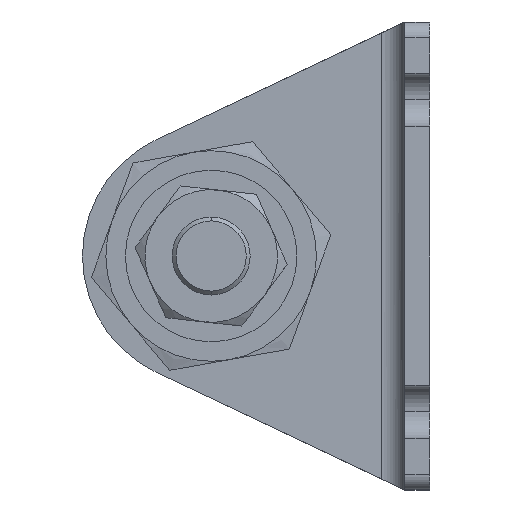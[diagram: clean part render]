
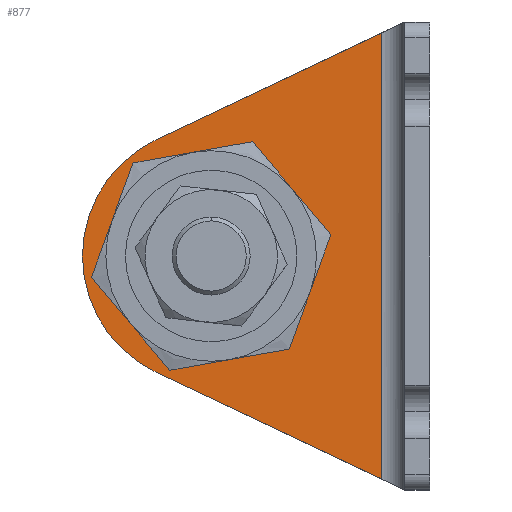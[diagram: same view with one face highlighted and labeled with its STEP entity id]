
A CAD part, left-side view. The second image highlights one B-rep face of the part: STEP entity #877.
In plain terms, the highlighted planar face has unit normal (-1, 0, 0) as drawn and (1, 0, 0) by its records, which use the part's own axes.
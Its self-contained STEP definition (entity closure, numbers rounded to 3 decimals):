
#201 = PLANE ( 'NONE',  #1355 ) ;
#302 = EDGE_CURVE ( 'NONE', #2799, #1390, #457, .T. ) ;
#341 = DIRECTION ( 'NONE',  ( 0., 0.904, 0.428 ) ) ;
#439 = CIRCLE ( 'NONE', #2510, 11.5 ) ;
#456 = CARTESIAN_POINT ( 'NONE',  ( 3.2, 3.2, -60. ) ) ;
#457 = LINE ( 'NONE', #1360, #5029 ) ;
#610 = EDGE_LOOP ( 'NONE', ( #3274, #2743 ) ) ;
#621 = CARTESIAN_POINT ( 'NONE',  ( 3.2, 28., -30. ) ) ;
#850 = CIRCLE ( 'NONE', #1437, 16.5 ) ;
#858 = VERTEX_POINT ( 'NONE', #2144 ) ;
#877 = ADVANCED_FACE ( 'NONE', ( #5231, #1170 ), #201, .T. ) ;
#924 = ORIENTED_EDGE ( 'NONE', *, *, #3091, .F. ) ;
#978 = DIRECTION ( 'NONE',  ( 1., 0., 0. ) ) ;
#1034 = CARTESIAN_POINT ( 'NONE',  ( 3.2, 26.408, -10.99 ) ) ;
#1170 = FACE_BOUND ( 'NONE', #610, .T. ) ;
#1262 = DIRECTION ( 'NONE',  ( 0., 1., 0. ) ) ;
#1313 = CARTESIAN_POINT ( 'NONE',  ( 3.2, 44.5, -30. ) ) ;
#1355 = AXIS2_PLACEMENT_3D ( 'NONE', #456, #1948, #1691 ) ;
#1359 = DIRECTION ( 'NONE',  ( 1., 0., 0. ) ) ;
#1360 = CARTESIAN_POINT ( 'NONE',  ( 3.2, 6.2, -60. ) ) ;
#1390 = VERTEX_POINT ( 'NONE', #5344 ) ;
#1437 = AXIS2_PLACEMENT_3D ( 'NONE', #621, #978, #1769 ) ;
#1473 = ORIENTED_EDGE ( 'NONE', *, *, #1821, .T. ) ;
#1621 = VERTEX_POINT ( 'NONE', #1827 ) ;
#1675 = DIRECTION ( 'NONE',  ( 1., 0., 0. ) ) ;
#1682 = CARTESIAN_POINT ( 'NONE',  ( 3.2, 28., -30. ) ) ;
#1691 = DIRECTION ( 'NONE',  ( 0., 1., 0. ) ) ;
#1769 = DIRECTION ( 'NONE',  ( 0., 1., 0. ) ) ;
#1821 = EDGE_CURVE ( 'NONE', #1390, #1912, #2749, .T. ) ;
#1827 = CARTESIAN_POINT ( 'NONE',  ( 3.2, 39.5, -30. ) ) ;
#1902 = DIRECTION ( 'NONE',  ( 0., 0.904, -0.428 ) ) ;
#1912 = VERTEX_POINT ( 'NONE', #3753 ) ;
#1948 = DIRECTION ( 'NONE',  ( 1., 0., 0. ) ) ;
#1950 = EDGE_CURVE ( 'NONE', #3003, #1621, #439, .T. ) ;
#2144 = CARTESIAN_POINT ( 'NONE',  ( 3.2, 35.062, -15.087 ) ) ;
#2232 = DIRECTION ( 'NONE',  ( 1., 0., 0. ) ) ;
#2270 = CARTESIAN_POINT ( 'NONE',  ( 3.2, 16.5, -30. ) ) ;
#2306 = DIRECTION ( 'NONE',  ( 0., 1., 0. ) ) ;
#2406 = EDGE_CURVE ( 'NONE', #5524, #858, #3504, .T. ) ;
#2497 = AXIS2_PLACEMENT_3D ( 'NONE', #2596, #1359, #2687 ) ;
#2510 = AXIS2_PLACEMENT_3D ( 'NONE', #3846, #1675, #2306 ) ;
#2596 = CARTESIAN_POINT ( 'NONE',  ( 3.2, 28., -30. ) ) ;
#2687 = DIRECTION ( 'NONE',  ( 0., 1., 0. ) ) ;
#2743 = ORIENTED_EDGE ( 'NONE', *, *, #1950, .F. ) ;
#2749 = LINE ( 'NONE', #3216, #3862 ) ;
#2799 = VERTEX_POINT ( 'NONE', #2805 ) ;
#2805 = CARTESIAN_POINT ( 'NONE',  ( 3.2, 6.2, -1.421 ) ) ;
#2926 = ORIENTED_EDGE ( 'NONE', *, *, #2406, .T. ) ;
#3003 = VERTEX_POINT ( 'NONE', #2270 ) ;
#3035 = CIRCLE ( 'NONE', #4340, 11.5 ) ;
#3091 = EDGE_CURVE ( 'NONE', #2799, #858, #4641, .T. ) ;
#3097 = ORIENTED_EDGE ( 'NONE', *, *, #5040, .T. ) ;
#3199 = ORIENTED_EDGE ( 'NONE', *, *, #302, .T. ) ;
#3216 = CARTESIAN_POINT ( 'NONE',  ( 3.2, 3.2, -60. ) ) ;
#3274 = ORIENTED_EDGE ( 'NONE', *, *, #5116, .F. ) ;
#3504 = CIRCLE ( 'NONE', #2497, 16.5 ) ;
#3657 = VECTOR ( 'NONE', #1902, 1000. ) ;
#3753 = CARTESIAN_POINT ( 'NONE',  ( 3.2, 35.062, -44.913 ) ) ;
#3846 = CARTESIAN_POINT ( 'NONE',  ( 3.2, 28., -30. ) ) ;
#3862 = VECTOR ( 'NONE', #341, 1000. ) ;
#4340 = AXIS2_PLACEMENT_3D ( 'NONE', #1682, #2232, #1262 ) ;
#4392 = DIRECTION ( 'NONE',  ( 0., 0., -1. ) ) ;
#4449 = EDGE_LOOP ( 'NONE', ( #924, #3199, #1473, #3097, #2926 ) ) ;
#4641 = LINE ( 'NONE', #1034, #3657 ) ;
#5029 = VECTOR ( 'NONE', #4392, 1000. ) ;
#5040 = EDGE_CURVE ( 'NONE', #1912, #5524, #850, .T. ) ;
#5116 = EDGE_CURVE ( 'NONE', #1621, #3003, #3035, .T. ) ;
#5231 = FACE_OUTER_BOUND ( 'NONE', #4449, .T. ) ;
#5344 = CARTESIAN_POINT ( 'NONE',  ( 3.2, 6.2, -58.579 ) ) ;
#5524 = VERTEX_POINT ( 'NONE', #1313 ) ;
